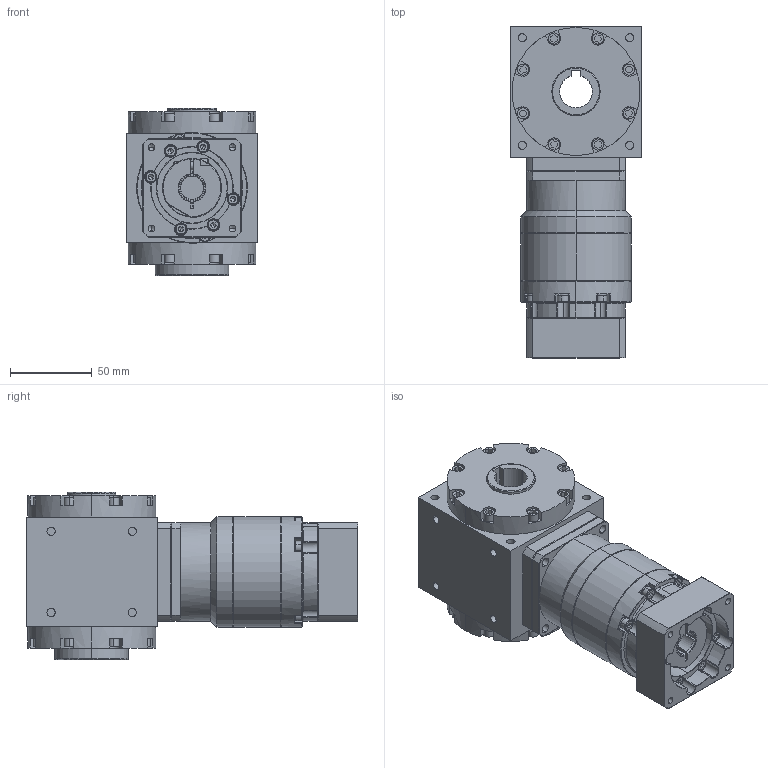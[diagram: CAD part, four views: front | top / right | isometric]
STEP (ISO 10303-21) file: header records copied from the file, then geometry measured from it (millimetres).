
FILE_DESCRIPTION (( 'STEP AP203' ), '1' );
FILE_NAME ('AAW080AS-L2-RFK 14-50-70-M5.STEP', '2024-12-24T02:46:01', ( '' ), ( '' ), 'SwSTEP 2.0', 'SolidWorks 2021', '' );
FILE_SCHEMA (( 'CONFIG_CONTROL_DESIGN' ));
Length unit declared in the file: millimetre
Products named in the file (3): AAW080AS-L2-RFK 14-50-70-M5; VRB-060-L2-S2-P1 14-50-70-M5; AAW080AS-RFK
Assembly tree (2 placements, depth 2):
  AAW080AS-L2-RFK 14-50-70-M5
    AAW080AS-RFK
    VRB-060-L2-S2-P1 14-50-70-M5
Bounding box: 80 x 202.5 x 102 mm (x, y, z)
Volume: 816888 mm3; surface area: 133799.4 mm2
Topology: 33 solids, 33 shells, 1304 faces, 3181 edges, 2005 vertices
Faces by surface type: plane 599, cylinder 443, cone 196, torus 50, bspline 16
Entity records: 39150 total; most frequent: CARTESIAN_POINT 7800, DIRECTION 6810, ORIENTED_EDGE 6266, EDGE_CURVE 3133, AXIS2_PLACEMENT_3D 2616, VERTEX_POINT 2005, VECTOR 1578, LINE 1578
